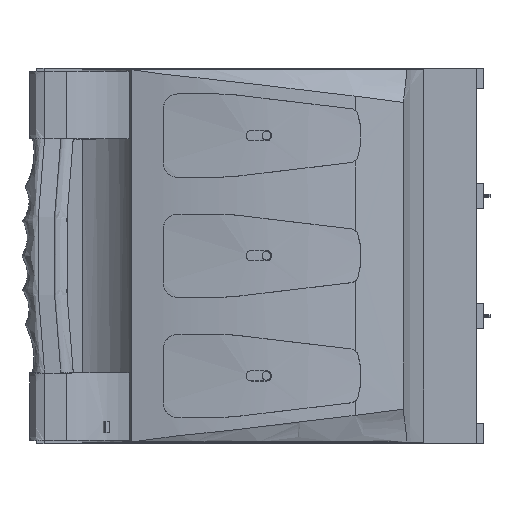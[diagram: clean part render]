
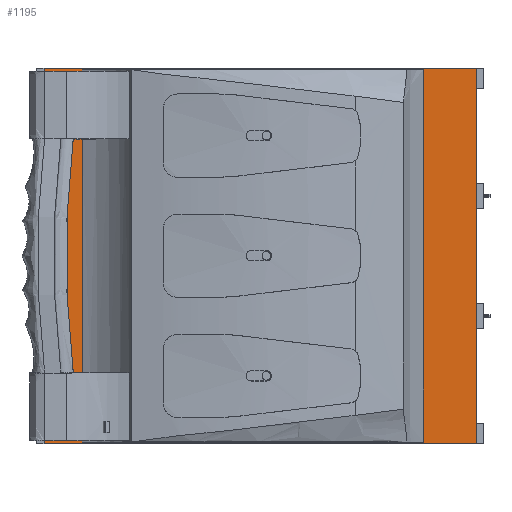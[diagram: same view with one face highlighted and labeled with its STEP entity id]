
A CAD part, top view. The second image highlights one B-rep face of the part: STEP entity #1195.
In plain terms, the highlighted planar face has unit normal (0, 0, 1).
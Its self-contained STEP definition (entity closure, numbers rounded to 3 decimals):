
#194=FACE_BOUND('',#2367,.T.);
#195=FACE_BOUND('',#2368,.T.);
#706=PLANE('',#9967);
#1195=ADVANCED_FACE('',(#194,#195),#706,.F.);
#2367=EDGE_LOOP('',(#6410,#6411,#6412,#6413));
#2368=EDGE_LOOP('',(#6414,#6415,#6416,#6417));
#2862=LINE('',#14324,#3628);
#2976=LINE('',#15721,#3742);
#3058=LINE('',#16233,#3824);
#3061=LINE('',#16239,#3827);
#3063=LINE('',#16264,#3829);
#3076=LINE('',#18906,#3845);
#3143=LINE('',#19209,#3914);
#3144=LINE('',#19210,#3915);
#3628=VECTOR('',#11275,1.);
#3742=VECTOR('',#11707,1.);
#3824=VECTOR('',#11901,1.);
#3827=VECTOR('',#11906,1.);
#3829=VECTOR('',#11910,1.);
#3845=VECTOR('',#11950,1.);
#3914=VECTOR('',#12177,1.);
#3915=VECTOR('',#12178,1.);
#6410=ORIENTED_EDGE('',*,*,#8753,.T.);
#6411=ORIENTED_EDGE('',*,*,#8757,.F.);
#6412=ORIENTED_EDGE('',*,*,#8750,.F.);
#6413=ORIENTED_EDGE('',*,*,#8785,.T.);
#6414=ORIENTED_EDGE('',*,*,#8879,.F.);
#6415=ORIENTED_EDGE('',*,*,#8628,.T.);
#6416=ORIENTED_EDGE('',*,*,#8880,.T.);
#6417=ORIENTED_EDGE('',*,*,#8309,.F.);
#7189=VERTEX_POINT('',#14323);
#7190=VERTEX_POINT('',#14325);
#7392=VERTEX_POINT('',#15720);
#7393=VERTEX_POINT('',#15722);
#7475=VERTEX_POINT('',#16232);
#7476=VERTEX_POINT('',#16234);
#7477=VERTEX_POINT('',#16238);
#7478=VERTEX_POINT('',#16240);
#8309=EDGE_CURVE('',#7189,#7190,#2862,.T.);
#8628=EDGE_CURVE('',#7393,#7392,#2976,.T.);
#8750=EDGE_CURVE('',#7475,#7476,#3058,.T.);
#8753=EDGE_CURVE('',#7478,#7477,#3061,.T.);
#8757=EDGE_CURVE('',#7476,#7477,#3063,.T.);
#8785=EDGE_CURVE('',#7475,#7478,#3076,.T.);
#8879=EDGE_CURVE('',#7393,#7189,#3143,.T.);
#8880=EDGE_CURVE('',#7392,#7190,#3144,.T.);
#9967=AXIS2_PLACEMENT_3D('',#19211,#12179,#12180);
#11275=DIRECTION('',(0.,-1.,0.));
#11707=DIRECTION('',(0.,-1.,0.));
#11901=DIRECTION('',(-1.,0.,0.));
#11906=DIRECTION('',(-1.,0.,0.));
#11910=DIRECTION('',(0.,-1.,0.));
#11950=DIRECTION('',(0.,-1.,0.));
#12177=DIRECTION('',(1.,0.,0.));
#12178=DIRECTION('',(1.,0.,0.));
#12179=DIRECTION('',(0.,0.,-1.));
#12180=DIRECTION('',(0.,1.,0.));
#14323=CARTESIAN_POINT('',(132.5,125.,84.5));
#14324=CARTESIAN_POINT('',(132.5,120.5,84.5));
#14325=CARTESIAN_POINT('',(132.5,-125.,84.5));
#15720=CARTESIAN_POINT('',(-155.5,-125.,84.5));
#15721=CARTESIAN_POINT('',(-155.5,120.5,84.5));
#15722=CARTESIAN_POINT('',(-155.5,125.,84.5));
#16232=CARTESIAN_POINT('',(97.261,124.,84.5));
#16233=CARTESIAN_POINT('',(93.,124.,84.5));
#16234=CARTESIAN_POINT('',(-129.969,124.,84.5));
#16238=CARTESIAN_POINT('',(-129.969,-124.,84.5));
#16239=CARTESIAN_POINT('',(-17.275,-124.,84.5));
#16240=CARTESIAN_POINT('',(97.261,-124.,84.5));
#16264=CARTESIAN_POINT('',(-129.969,120.5,84.5));
#18906=CARTESIAN_POINT('',(97.261,129.232,84.5));
#19209=CARTESIAN_POINT('',(-127.,125.,84.5));
#19210=CARTESIAN_POINT('',(93.,-125.,84.5));
#19211=CARTESIAN_POINT('',(93.,120.5,84.5));
